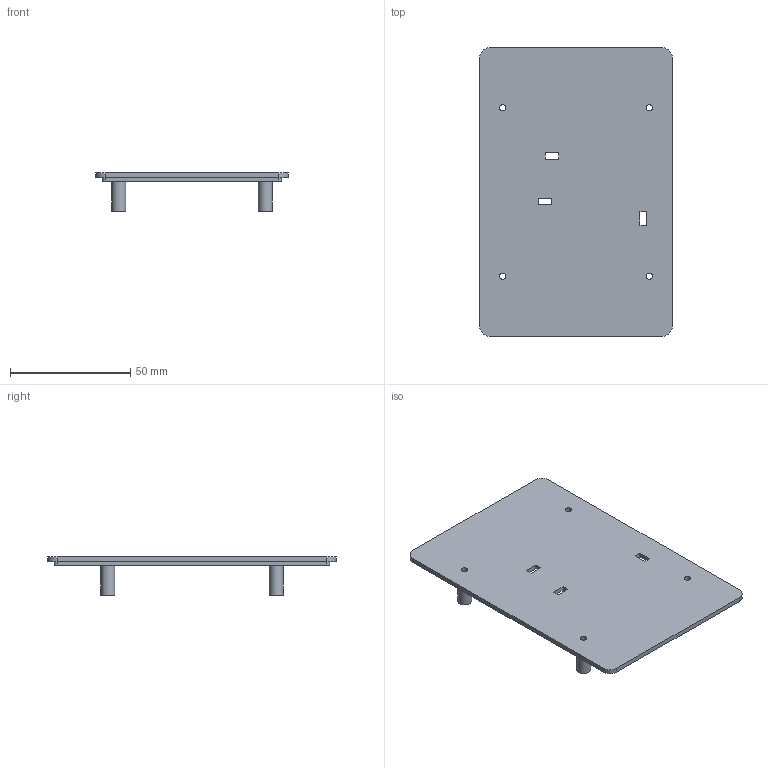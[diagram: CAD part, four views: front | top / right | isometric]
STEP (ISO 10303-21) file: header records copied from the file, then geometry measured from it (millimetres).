
FILE_DESCRIPTION(('Open CASCADE Model'),'2;1');
FILE_NAME('Open CASCADE Shape Model','2026-09-11T05:12:42',('Author'),( 'Open CASCADE'),'Open CASCADE STEP processor 7.9','Open CASCADE 7.9' ,'Unknown');
FILE_SCHEMA(('AUTOMOTIVE_DESIGN { 1 0 10303 214 1 1 1 1 }'));
Length unit declared in the file: millimetre
Products named in the file (1): Open CASCADE STEP translator 7.9 2
Bounding box: 80 x 120 x 15.9 mm (x, y, z)
Volume: 20834.9 mm3; surface area: 22497 mm2
Topology: 1 solids, 1 shells, 52 faces, 132 edges, 88 vertices
Faces by surface type: plane 32, cylinder 20
Full cylindrical faces by diameter (mm): 2.6 x4, 5.8 x4
Entity records: 3312 total; most frequent: CARTESIAN_POINT 717, DIRECTION 452, ORIENTED_EDGE 264, PCURVE 264, DEFINITIONAL_REPRESENTATION 264, LINE 244, VECTOR 244, EDGE_CURVE 132
